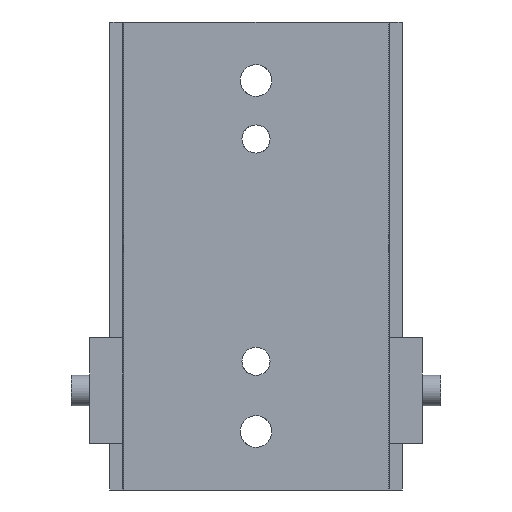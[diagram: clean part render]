
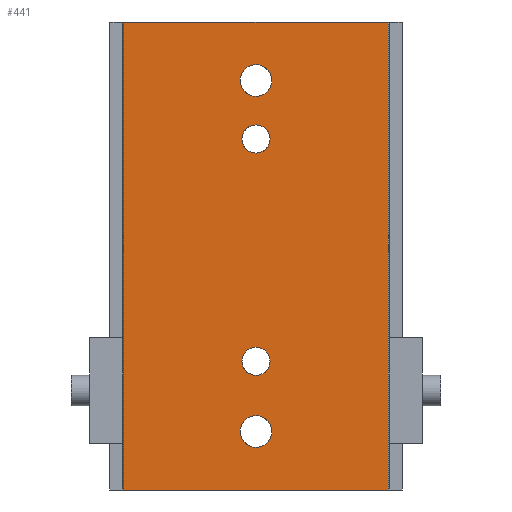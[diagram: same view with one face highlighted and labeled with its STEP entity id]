
A CAD part, front view. The second image highlights one B-rep face of the part: STEP entity #441.
In plain terms, the highlighted planar face has unit normal (0, -1, 0).
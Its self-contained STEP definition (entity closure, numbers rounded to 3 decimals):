
#77=CARTESIAN_POINT('Vertex',(-590.473,748.188,31.75)) ;
#80=CARTESIAN_POINT('Axis2P3D Location',(-590.473,748.188,25.)) ;
#84=CARTESIAN_POINT('Vertex',(-597.223,748.188,25.)) ;
#87=CARTESIAN_POINT('Axis2P3D Location',(-590.473,748.188,25.)) ;
#91=CARTESIAN_POINT('Vertex',(-590.473,748.188,18.25)) ;
#273=CARTESIAN_POINT('Axis2P3D Location',(-590.473,748.188,25.)) ;
#277=CARTESIAN_POINT('Vertex',(-583.723,748.188,25.)) ;
#280=CARTESIAN_POINT('Axis2P3D Location',(-590.473,748.188,25.)) ;
#294=CARTESIAN_POINT('Axis2P3D Location',(-646.973,748.188,200.)) ;
#299=CARTESIAN_POINT('Line Origine',(-590.473,748.188,0.)) ;
#303=CARTESIAN_POINT('Vertex',(-646.973,748.188,0.)) ;
#305=CARTESIAN_POINT('Vertex',(-533.973,748.188,0.)) ;
#308=CARTESIAN_POINT('Line Origine',(-533.973,748.188,100.)) ;
#312=CARTESIAN_POINT('Vertex',(-533.973,748.188,200.)) ;
#315=CARTESIAN_POINT('Line Origine',(-590.473,748.188,200.)) ;
#319=CARTESIAN_POINT('Vertex',(-646.973,748.188,200.)) ;
#322=CARTESIAN_POINT('Line Origine',(-646.973,748.188,100.)) ;
#333=CARTESIAN_POINT('Axis2P3D Location',(-590.473,748.188,150.)) ;
#337=CARTESIAN_POINT('Vertex',(-584.473,748.188,150.)) ;
#339=CARTESIAN_POINT('Vertex',(-590.473,748.188,144.)) ;
#342=CARTESIAN_POINT('Axis2P3D Location',(-590.473,748.188,150.)) ;
#346=CARTESIAN_POINT('Vertex',(-596.473,748.188,150.)) ;
#349=CARTESIAN_POINT('Axis2P3D Location',(-590.473,748.188,150.)) ;
#353=CARTESIAN_POINT('Vertex',(-590.473,748.188,156.)) ;
#356=CARTESIAN_POINT('Axis2P3D Location',(-590.473,748.188,150.)) ;
#367=CARTESIAN_POINT('Axis2P3D Location',(-590.473,748.188,175.)) ;
#371=CARTESIAN_POINT('Vertex',(-583.723,748.188,175.)) ;
#373=CARTESIAN_POINT('Vertex',(-590.473,748.188,168.25)) ;
#376=CARTESIAN_POINT('Axis2P3D Location',(-590.473,748.188,175.)) ;
#380=CARTESIAN_POINT('Vertex',(-597.223,748.188,175.)) ;
#383=CARTESIAN_POINT('Axis2P3D Location',(-590.473,748.188,175.)) ;
#387=CARTESIAN_POINT('Vertex',(-590.473,748.188,181.75)) ;
#390=CARTESIAN_POINT('Axis2P3D Location',(-590.473,748.188,175.)) ;
#401=CARTESIAN_POINT('Axis2P3D Location',(-590.473,748.188,55.)) ;
#405=CARTESIAN_POINT('Vertex',(-584.473,748.188,55.)) ;
#407=CARTESIAN_POINT('Vertex',(-590.473,748.188,49.)) ;
#410=CARTESIAN_POINT('Axis2P3D Location',(-590.473,748.188,55.)) ;
#414=CARTESIAN_POINT('Vertex',(-596.473,748.188,55.)) ;
#417=CARTESIAN_POINT('Axis2P3D Location',(-590.473,748.188,55.)) ;
#421=CARTESIAN_POINT('Vertex',(-590.473,748.188,61.)) ;
#424=CARTESIAN_POINT('Axis2P3D Location',(-590.473,748.188,55.)) ;
#81=DIRECTION('Axis2P3D Direction',(0.,-1.,0.)) ;
#88=DIRECTION('Axis2P3D Direction',(0.,-1.,0.)) ;
#274=DIRECTION('Axis2P3D Direction',(0.,-1.,0.)) ;
#281=DIRECTION('Axis2P3D Direction',(0.,-1.,0.)) ;
#295=DIRECTION('Axis2P3D Direction',(0.,1.,0.)) ;
#296=DIRECTION('Axis2P3D XDirection',(0.,-0.,1.)) ;
#300=DIRECTION('Vector Direction',(1.,0.,0.)) ;
#309=DIRECTION('Vector Direction',(0.,0.,-1.)) ;
#316=DIRECTION('Vector Direction',(1.,0.,0.)) ;
#323=DIRECTION('Vector Direction',(0.,0.,-1.)) ;
#334=DIRECTION('Axis2P3D Direction',(0.,1.,0.)) ;
#343=DIRECTION('Axis2P3D Direction',(0.,1.,0.)) ;
#350=DIRECTION('Axis2P3D Direction',(0.,1.,0.)) ;
#357=DIRECTION('Axis2P3D Direction',(0.,1.,0.)) ;
#368=DIRECTION('Axis2P3D Direction',(0.,1.,0.)) ;
#377=DIRECTION('Axis2P3D Direction',(0.,1.,0.)) ;
#384=DIRECTION('Axis2P3D Direction',(0.,1.,0.)) ;
#391=DIRECTION('Axis2P3D Direction',(0.,1.,0.)) ;
#402=DIRECTION('Axis2P3D Direction',(0.,1.,0.)) ;
#411=DIRECTION('Axis2P3D Direction',(0.,1.,0.)) ;
#418=DIRECTION('Axis2P3D Direction',(0.,1.,0.)) ;
#425=DIRECTION('Axis2P3D Direction',(0.,1.,0.)) ;
#82=AXIS2_PLACEMENT_3D('Circle Axis2P3D',#80,#81,$) ;
#89=AXIS2_PLACEMENT_3D('Circle Axis2P3D',#87,#88,$) ;
#275=AXIS2_PLACEMENT_3D('Circle Axis2P3D',#273,#274,$) ;
#282=AXIS2_PLACEMENT_3D('Circle Axis2P3D',#280,#281,$) ;
#297=AXIS2_PLACEMENT_3D('Plane Axis2P3D',#294,#295,#296) ;
#335=AXIS2_PLACEMENT_3D('Circle Axis2P3D',#333,#334,$) ;
#344=AXIS2_PLACEMENT_3D('Circle Axis2P3D',#342,#343,$) ;
#351=AXIS2_PLACEMENT_3D('Circle Axis2P3D',#349,#350,$) ;
#358=AXIS2_PLACEMENT_3D('Circle Axis2P3D',#356,#357,$) ;
#369=AXIS2_PLACEMENT_3D('Circle Axis2P3D',#367,#368,$) ;
#378=AXIS2_PLACEMENT_3D('Circle Axis2P3D',#376,#377,$) ;
#385=AXIS2_PLACEMENT_3D('Circle Axis2P3D',#383,#384,$) ;
#392=AXIS2_PLACEMENT_3D('Circle Axis2P3D',#390,#391,$) ;
#403=AXIS2_PLACEMENT_3D('Circle Axis2P3D',#401,#402,$) ;
#412=AXIS2_PLACEMENT_3D('Circle Axis2P3D',#410,#411,$) ;
#419=AXIS2_PLACEMENT_3D('Circle Axis2P3D',#417,#418,$) ;
#426=AXIS2_PLACEMENT_3D('Circle Axis2P3D',#424,#425,$) ;
#328=ORIENTED_EDGE('',*,*,#307,.T.) ;
#329=ORIENTED_EDGE('',*,*,#314,.F.) ;
#330=ORIENTED_EDGE('',*,*,#321,.F.) ;
#331=ORIENTED_EDGE('',*,*,#326,.T.) ;
#362=ORIENTED_EDGE('',*,*,#341,.T.) ;
#363=ORIENTED_EDGE('',*,*,#348,.T.) ;
#364=ORIENTED_EDGE('',*,*,#355,.T.) ;
#365=ORIENTED_EDGE('',*,*,#360,.T.) ;
#396=ORIENTED_EDGE('',*,*,#375,.T.) ;
#397=ORIENTED_EDGE('',*,*,#382,.T.) ;
#398=ORIENTED_EDGE('',*,*,#389,.T.) ;
#399=ORIENTED_EDGE('',*,*,#394,.T.) ;
#430=ORIENTED_EDGE('',*,*,#409,.T.) ;
#431=ORIENTED_EDGE('',*,*,#416,.T.) ;
#432=ORIENTED_EDGE('',*,*,#423,.T.) ;
#433=ORIENTED_EDGE('',*,*,#428,.T.) ;
#436=ORIENTED_EDGE('',*,*,#279,.T.) ;
#437=ORIENTED_EDGE('',*,*,#93,.T.) ;
#438=ORIENTED_EDGE('',*,*,#86,.T.) ;
#439=ORIENTED_EDGE('',*,*,#284,.T.) ;
#366=FACE_BOUND('',#361,.T.) ;
#400=FACE_BOUND('',#395,.T.) ;
#434=FACE_BOUND('',#429,.T.) ;
#440=FACE_BOUND('',#435,.T.) ;
#301=VECTOR('Line Direction',#300,1.) ;
#310=VECTOR('Line Direction',#309,1.) ;
#317=VECTOR('Line Direction',#316,1.) ;
#324=VECTOR('Line Direction',#323,1.) ;
#441=ADVANCED_FACE('A945-01-1220-01-S-BC',(#332,#366,#400,#434,#440),#298,.F.) ;
#83=CIRCLE('generated circle',#82,6.75) ;
#90=CIRCLE('generated circle',#89,6.75) ;
#276=CIRCLE('generated circle',#275,6.75) ;
#283=CIRCLE('generated circle',#282,6.75) ;
#336=CIRCLE('generated circle',#335,6.) ;
#345=CIRCLE('generated circle',#344,6.) ;
#352=CIRCLE('generated circle',#351,6.) ;
#359=CIRCLE('generated circle',#358,6.) ;
#370=CIRCLE('generated circle',#369,6.75) ;
#379=CIRCLE('generated circle',#378,6.75) ;
#386=CIRCLE('generated circle',#385,6.75) ;
#393=CIRCLE('generated circle',#392,6.75) ;
#404=CIRCLE('generated circle',#403,6.) ;
#413=CIRCLE('generated circle',#412,6.) ;
#420=CIRCLE('generated circle',#419,6.) ;
#427=CIRCLE('generated circle',#426,6.) ;
#86=EDGE_CURVE('',#85,#78,#83,.F.) ;
#93=EDGE_CURVE('',#92,#85,#90,.F.) ;
#279=EDGE_CURVE('',#278,#92,#276,.F.) ;
#284=EDGE_CURVE('',#78,#278,#283,.F.) ;
#307=EDGE_CURVE('',#304,#306,#302,.T.) ;
#314=EDGE_CURVE('',#313,#306,#311,.T.) ;
#321=EDGE_CURVE('',#320,#313,#318,.T.) ;
#326=EDGE_CURVE('',#320,#304,#325,.T.) ;
#341=EDGE_CURVE('',#338,#340,#336,.T.) ;
#348=EDGE_CURVE('',#340,#347,#345,.T.) ;
#355=EDGE_CURVE('',#347,#354,#352,.T.) ;
#360=EDGE_CURVE('',#354,#338,#359,.T.) ;
#375=EDGE_CURVE('',#372,#374,#370,.T.) ;
#382=EDGE_CURVE('',#374,#381,#379,.T.) ;
#389=EDGE_CURVE('',#381,#388,#386,.T.) ;
#394=EDGE_CURVE('',#388,#372,#393,.T.) ;
#409=EDGE_CURVE('',#406,#408,#404,.T.) ;
#416=EDGE_CURVE('',#408,#415,#413,.T.) ;
#423=EDGE_CURVE('',#415,#422,#420,.T.) ;
#428=EDGE_CURVE('',#422,#406,#427,.T.) ;
#327=EDGE_LOOP('',(#328,#329,#330,#331)) ;
#361=EDGE_LOOP('',(#362,#363,#364,#365)) ;
#395=EDGE_LOOP('',(#396,#397,#398,#399)) ;
#429=EDGE_LOOP('',(#430,#431,#432,#433)) ;
#435=EDGE_LOOP('',(#436,#437,#438,#439)) ;
#332=FACE_OUTER_BOUND('',#327,.T.) ;
#302=LINE('Line',#299,#301) ;
#311=LINE('Line',#308,#310) ;
#318=LINE('Line',#315,#317) ;
#325=LINE('Line',#322,#324) ;
#298=PLANE('Plane',#297) ;
#78=VERTEX_POINT('',#77) ;
#85=VERTEX_POINT('',#84) ;
#92=VERTEX_POINT('',#91) ;
#278=VERTEX_POINT('',#277) ;
#304=VERTEX_POINT('',#303) ;
#306=VERTEX_POINT('',#305) ;
#313=VERTEX_POINT('',#312) ;
#320=VERTEX_POINT('',#319) ;
#338=VERTEX_POINT('',#337) ;
#340=VERTEX_POINT('',#339) ;
#347=VERTEX_POINT('',#346) ;
#354=VERTEX_POINT('',#353) ;
#372=VERTEX_POINT('',#371) ;
#374=VERTEX_POINT('',#373) ;
#381=VERTEX_POINT('',#380) ;
#388=VERTEX_POINT('',#387) ;
#406=VERTEX_POINT('',#405) ;
#408=VERTEX_POINT('',#407) ;
#415=VERTEX_POINT('',#414) ;
#422=VERTEX_POINT('',#421) ;
